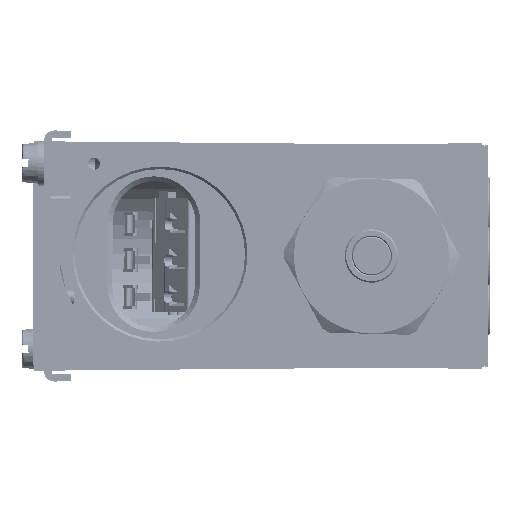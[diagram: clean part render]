
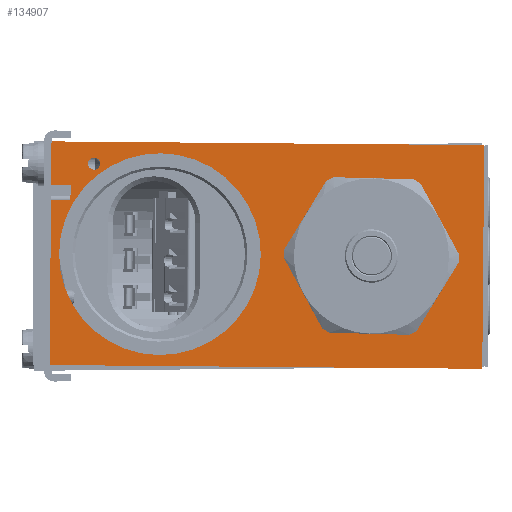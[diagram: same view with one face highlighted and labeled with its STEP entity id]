
A CAD part, left-side view. The second image highlights one B-rep face of the part: STEP entity #134907.
In plain terms, the highlighted planar face has unit normal (-1, 0, 0) as drawn and (0, 0, -1) by its records, which use the part's own axes.
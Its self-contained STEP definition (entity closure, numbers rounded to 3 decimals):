
#127181=DIRECTION('',(0.,-1.,0.));
#127182=VECTOR('',#127181,4.);
#127183=CARTESIAN_POINT('',(-11.,42.75,0.));
#127184=LINE('',#127183,#127182);
#127309=DIRECTION('',(1.,0.,0.));
#127310=VECTOR('',#127309,3.);
#127311=CARTESIAN_POINT('',(-14.,38.75,0.));
#127312=LINE('',#127311,#127310);
#127316=DIRECTION('',(0.,-1.,0.));
#127317=VECTOR('',#127316,4.);
#127318=CARTESIAN_POINT('',(-14.,42.75,0.));
#127319=LINE('',#127318,#127317);
#127323=DIRECTION('',(1.,0.,0.));
#127324=VECTOR('',#127323,9.);
#127325=CARTESIAN_POINT('',(-23.,42.75,0.));
#127326=LINE('',#127325,#127324);
#127330=DIRECTION('',(0.,1.,0.));
#127331=VECTOR('',#127330,89.);
#127332=CARTESIAN_POINT('',(-23.,-46.25,0.));
#127333=LINE('',#127332,#127331);
#127337=DIRECTION('',(-1.,0.,0.));
#127338=VECTOR('',#127337,46.);
#127339=CARTESIAN_POINT('',(23.,-46.25,0.));
#127340=LINE('',#127339,#127338);
#127344=DIRECTION('',(0.,-1.,0.));
#127345=VECTOR('',#127344,89.);
#127346=CARTESIAN_POINT('',(23.,42.75,0.));
#127347=LINE('',#127346,#127345);
#127351=DIRECTION('',(1.,0.,0.));
#127352=VECTOR('',#127351,34.);
#127353=CARTESIAN_POINT('',(-11.,42.75,0.));
#127354=LINE('',#127353,#127352);
#127358=CARTESIAN_POINT('',(0.,20.25,0.));
#127359=DIRECTION('',(0.,0.,1.));
#127360=DIRECTION('',(0.,-1.,0.));
#127361=AXIS2_PLACEMENT_3D('',#127358,#127359,#127360);
#127366=CARTESIAN_POINT('',(0.,20.25,0.));
#127367=DIRECTION('',(0.,0.,1.));
#127368=DIRECTION('',(0.,1.,0.));
#127369=AXIS2_PLACEMENT_3D('',#127366,#127367,#127368);
#127374=CARTESIAN_POINT('',(0.,-23.25,0.));
#127375=DIRECTION('',(0.,0.,1.));
#127376=DIRECTION('',(1.,0.,0.));
#127377=AXIS2_PLACEMENT_3D('',#127374,#127375,#127376);
#127382=CARTESIAN_POINT('',(0.,-23.25,0.));
#127383=DIRECTION('',(0.,0.,1.));
#127384=DIRECTION('',(-1.,0.,0.));
#127385=AXIS2_PLACEMENT_3D('',#127382,#127383,#127384);
#127390=CARTESIAN_POINT('',(-18.5,33.95,0.));
#127391=DIRECTION('',(0.,0.,1.));
#127392=DIRECTION('',(-1.,0.,0.));
#127393=AXIS2_PLACEMENT_3D('',#127390,#127391,#127392);
#127398=CARTESIAN_POINT('',(-18.5,33.95,0.));
#127399=DIRECTION('',(0.,0.,1.));
#127400=DIRECTION('',(1.,0.,0.));
#127401=AXIS2_PLACEMENT_3D('',#127398,#127399,#127400);
#133084=CARTESIAN_POINT('',(0.,-0.5,0.));
#133085=CARTESIAN_POINT('',(0.,41.,0.));
#133086=VERTEX_POINT('',#133084);
#133087=VERTEX_POINT('',#133085);
#133120=CARTESIAN_POINT('',(-23.,-46.25,0.));
#133121=CARTESIAN_POINT('',(-23.,42.75,0.));
#133122=VERTEX_POINT('',#133120);
#133123=VERTEX_POINT('',#133121);
#133207=CARTESIAN_POINT('',(-19.75,33.95,0.));
#133209=VERTEX_POINT('',#133207);
#133289=CARTESIAN_POINT('',(-11.,42.75,0.));
#133290=VERTEX_POINT('',#133289);
#133466=CARTESIAN_POINT('',(-11.,38.75,0.));
#133467=VERTEX_POINT('',#133466);
#133586=CARTESIAN_POINT('',(-14.,42.75,0.));
#133587=CARTESIAN_POINT('',(-14.,38.75,0.));
#133588=VERTEX_POINT('',#133586);
#133589=VERTEX_POINT('',#133587);
#133647=CARTESIAN_POINT('',(-17.25,33.95,0.));
#133648=VERTEX_POINT('',#133647);
#133659=CARTESIAN_POINT('',(23.,42.75,0.));
#133660=CARTESIAN_POINT('',(23.,-46.25,0.));
#133661=VERTEX_POINT('',#133659);
#133662=VERTEX_POINT('',#133660);
#133755=CARTESIAN_POINT('',(-11.03,-23.25,0.));
#133756=CARTESIAN_POINT('',(11.03,-23.25,0.));
#133757=VERTEX_POINT('',#133755);
#133758=VERTEX_POINT('',#133756);
#134871=CARTESIAN_POINT('',(0.,0.,0.));
#134872=DIRECTION('',(0.,0.,1.));
#134873=DIRECTION('',(1.,0.,0.));
#134874=AXIS2_PLACEMENT_3D('',#134871,#134872,#134873);
#134875=PLANE('',#134874);
#134877=ORIENTED_EDGE('',*,*,#134876,.F.);
#134879=ORIENTED_EDGE('',*,*,#134878,.F.);
#134881=ORIENTED_EDGE('',*,*,#134880,.F.);
#134882=ORIENTED_EDGE('',*,*,#134833,.F.);
#134883=ORIENTED_EDGE('',*,*,#134856,.F.);
#134884=ORIENTED_EDGE('',*,*,#134677,.F.);
#134885=ORIENTED_EDGE('',*,*,#134703,.F.);
#134886=ORIENTED_EDGE('',*,*,#134742,.T.);
#134887=EDGE_LOOP('',(#134877,#134879,#134881,#134882,#134883,#134884,#134885,
#134886));
#134888=FACE_OUTER_BOUND('',#134887,.F.);
#134890=ORIENTED_EDGE('',*,*,#134889,.F.);
#134892=ORIENTED_EDGE('',*,*,#134891,.F.);
#134893=EDGE_LOOP('',(#134890,#134892));
#134894=FACE_BOUND('',#134893,.F.);
#134896=ORIENTED_EDGE('',*,*,#134895,.F.);
#134898=ORIENTED_EDGE('',*,*,#134897,.F.);
#134899=EDGE_LOOP('',(#134896,#134898));
#134900=FACE_BOUND('',#134899,.F.);
#134902=ORIENTED_EDGE('',*,*,#134901,.F.);
#134904=ORIENTED_EDGE('',*,*,#134903,.F.);
#134905=EDGE_LOOP('',(#134902,#134904));
#134906=FACE_BOUND('',#134905,.F.);
#127362=CIRCLE('',#127361,20.75);
#127370=CIRCLE('',#127369,20.75);
#127378=CIRCLE('',#127377,11.03);
#127386=CIRCLE('',#127385,11.03);
#127394=CIRCLE('',#127393,1.25);
#127402=CIRCLE('',#127401,1.25);
#134677=EDGE_CURVE('',#133661,#133662,#127347,.T.);
#134703=EDGE_CURVE('',#133290,#133661,#127354,.T.);
#134742=EDGE_CURVE('',#133290,#133467,#127184,.T.);
#134833=EDGE_CURVE('',#133122,#133123,#127333,.T.);
#134856=EDGE_CURVE('',#133662,#133122,#127340,.T.);
#134876=EDGE_CURVE('',#133589,#133467,#127312,.T.);
#134878=EDGE_CURVE('',#133588,#133589,#127319,.T.);
#134880=EDGE_CURVE('',#133123,#133588,#127326,.T.);
#134889=EDGE_CURVE('',#133086,#133087,#127362,.T.);
#134891=EDGE_CURVE('',#133087,#133086,#127370,.T.);
#134895=EDGE_CURVE('',#133758,#133757,#127378,.T.);
#134897=EDGE_CURVE('',#133757,#133758,#127386,.T.);
#134901=EDGE_CURVE('',#133209,#133648,#127394,.T.);
#134903=EDGE_CURVE('',#133648,#133209,#127402,.T.);
#134907=ADVANCED_FACE('',(#134888,#134894,#134900,#134906),#134875,.F.);
